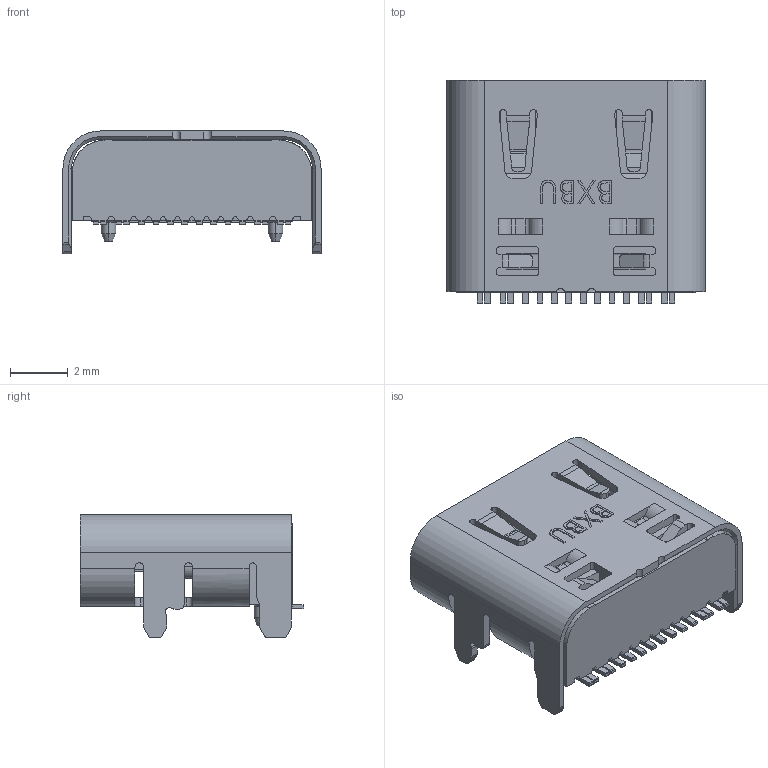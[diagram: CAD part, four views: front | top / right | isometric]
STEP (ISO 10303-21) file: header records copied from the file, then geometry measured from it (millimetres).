
FILE_DESCRIPTION (( 'STEP AP214' ), '1' );
FILE_NAME ('____ ____1_______1.STEP', '2026-05-22T01:02:05', ( '' ), ( '' ), 'SwSTEP 2.0', 'SolidWorks 2024', '' );
FILE_SCHEMA (( 'AUTOMOTIVE_DESIGN' ));
Length unit declared in the file: millimetre
Products named in the file (1): ____ ____1_______1
Bounding box: 8.94 x 7.75 x 4.29 mm (x, y, z)
Volume: 115 mm3; surface area: 481.6 mm2
Topology: 1 solids, 1 shells, 848 faces, 2425 edges, 1572 vertices
Faces by surface type: plane 527, cylinder 254, bspline 33, cone 18, torus 16
Entity records: 29023 total; most frequent: CARTESIAN_POINT 6804, ORIENTED_EDGE 4850, DIRECTION 4434, EDGE_CURVE 2425, LINE 1766, VECTOR 1766, VERTEX_POINT 1572, AXIS2_PLACEMENT_3D 1334
